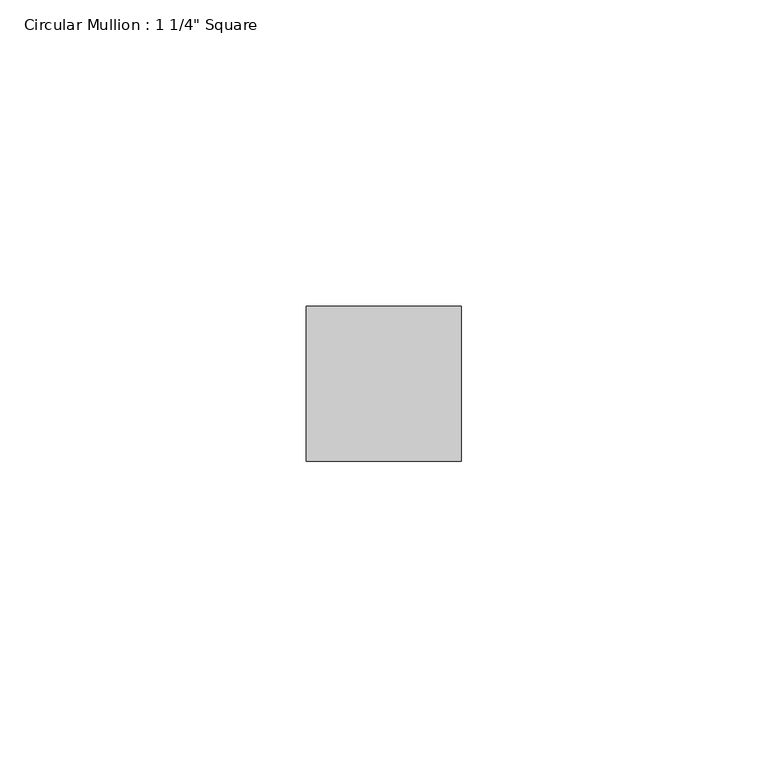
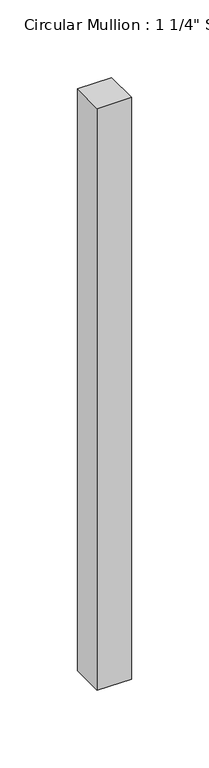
"""IFC4 building model written with IfcOpenShell, lengths in millimetres: member geometry."""

from ifc_helpers import new_model, si_unit, frame, origin, place, context, project, spatial, polyline, outline, extrude, source, transform, mapped, element, save


def member_3d4b608b(model_context):
    return source(origin(), model_context, "Body", "SweptSolid", [
        extrude(outline(polyline([(12.7, 12.7), (12.7, -12.7), (-12.7, -12.7), (-12.7, 12.7), (12.7, 12.7)])), frame((0.0, 0.0, -457.2), z_axis=(0.0, 0.0, 1.0), x_axis=(1.0, 0.0, 0.0)), (0.0, 0.0, 1.0), 457.2),
    ])


if __name__ == "__main__":
    model = new_model("IFC4")
    model_context = context("Model", 3, world=origin())
    ifc_project = project(units=[si_unit("LENGTHUNIT", "METRE", prefix="MILLI")], contexts=[model_context])
    site = spatial("IfcSite", under=ifc_project)
    building = spatial("IfcBuilding", under=site)
    placement = place(None, origin())
    member_shape = member_3d4b608b(model_context)
    element("IfcMember", 1, ObjectType="Circular Mullion : 1 1/4\" Square", at=placement, inside=building, context=model_context, shape_type="MappedRepresentation", body=[
        mapped(member_shape, transform((0.0, 0.0, 0.0), x_axis=(1.0, 0.0, 0.0), y_axis=(0.0, 1.0, 0.0), z_axis=(0.0, 0.0, 1.0))),
    ])
    save(model, "model.ifc")
